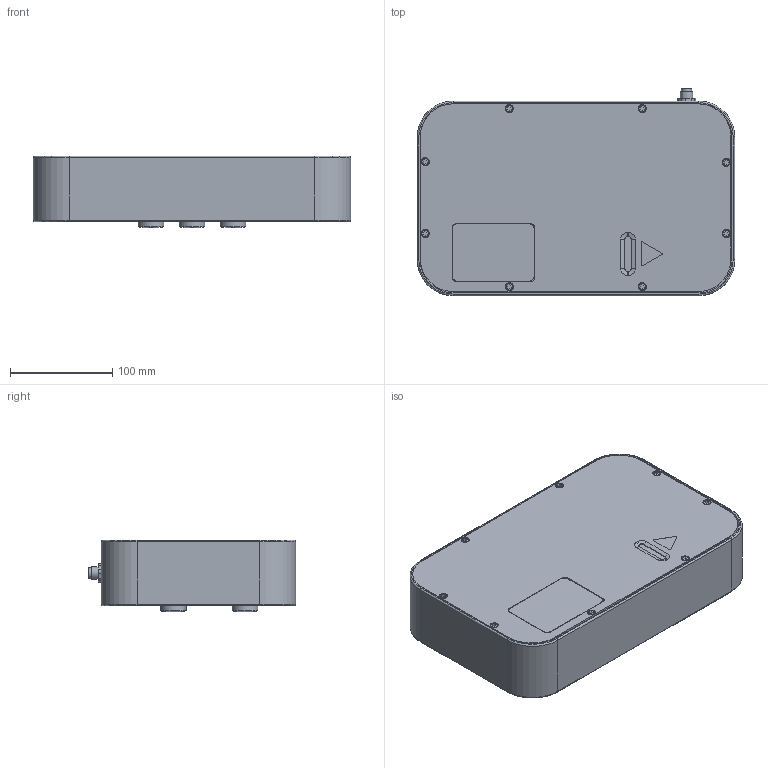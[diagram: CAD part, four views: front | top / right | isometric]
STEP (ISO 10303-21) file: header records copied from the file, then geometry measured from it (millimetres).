
FILE_DESCRIPTION((''),'2;1');
FILE_NAME('Z:\udvikling\Inventor Tegninger\Produktions Tegninger\4000 O2DS Z\StepFiles for Homepage\O2DS LASE AND DSE\O2DS_3D DSE.stp','2017-03-24T01:47:14',('Peter'),(''),'Autodesk Inventor 2008','Autodesk Inventor 2008','');
FILE_SCHEMA(('AUTOMOTIVE_DESIGN { 1 0 10303 214 1 1 1 1 }'));
Length unit declared in the file: millimetre
Products named in the file (10): Assembly for O2DS_3D DSE; M4skrue; 4055-01_RødtFrontglas_56x80_RG630_HB630; 4054-01_RødtLaserglas_15x45_RG630_HB630; 4053-11_O2DSLåg; 4050-11_O2DS_Z_House; M12 12pol Connector; 3015-02_RedlineFod; Laser Warning Label; LABEL O2DS DSE
Assembly tree (19 placements, depth 2):
  Assembly for O2DS_3D DSE
    M4skrue  x9
    4055-01_RødtFrontglas_56x80_RG630_HB630
    4054-01_RødtLaserglas_15x45_RG630_HB630
    4053-11_O2DSLåg
    4050-11_O2DS_Z_House
    M12 12pol Connector
    3015-02_RedlineFod  x3
    Laser Warning Label
    LABEL O2DS DSE
Bounding box: 310 x 202.6 x 70.05 mm (x, y, z)
Volume: 804702.9 mm3; surface area: 380104.2 mm2
Topology: 19 solids, 19 shells, 720 faces, 1832 edges, 1209 vertices
Faces by surface type: plane 318, cylinder 218, bspline 156, cone 20, torus 8
Full cylindrical faces by diameter (mm): 0.5 x12, 3.3 x6, 4 x9, 6.9 x9, 8 x1, 10 x4, 12 x4, 13.778 x1, 16 x1, 25 x3
Entity records: 19055 total; most frequent: CARTESIAN_POINT 5363, DIRECTION 2790, ORIENTED_EDGE 2572, EDGE_CURVE 1286, AXIS2_PLACEMENT_3D 1037, VERTEX_POINT 918, EDGE_LOOP 830, VECTOR 716
